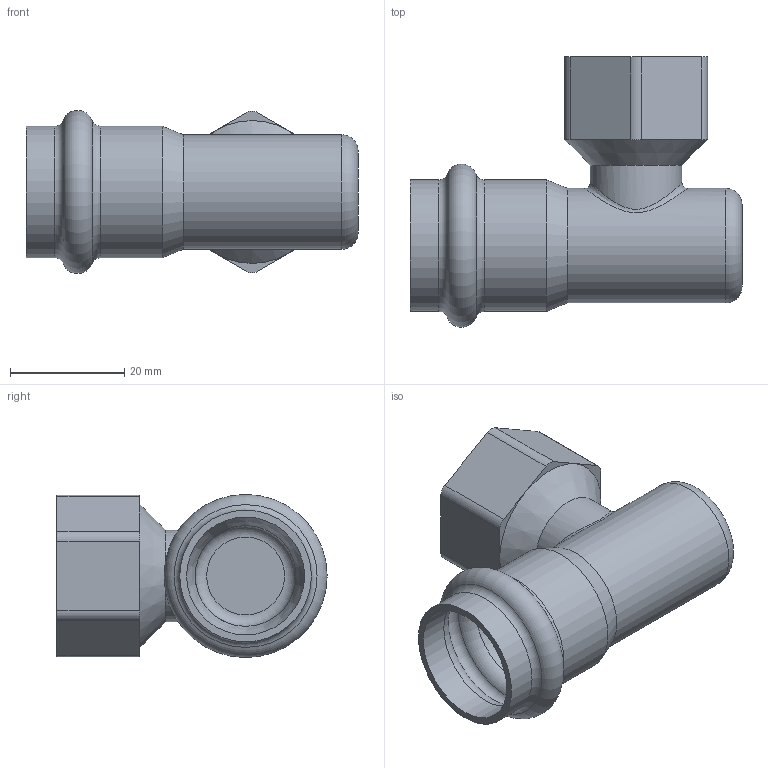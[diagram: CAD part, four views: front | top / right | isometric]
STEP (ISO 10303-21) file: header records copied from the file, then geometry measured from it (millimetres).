
FILE_DESCRIPTION(/* description */ (''),/* implementation_level */ '2;1');
FILE_NAME(/* name */ '51269010001.stp',/* time_stamp */ '2020-06-22T14:54:41+08:00',/* author */ (''),/* organization */ (''),/* preprocessor_version */ 'ST-DEVELOPER v11',/* originating_system */ 'SIEMENS PLM Software NX 7.5',/* authorisation */ '');
FILE_SCHEMA (('CONFIG_CONTROL_DESIGN'));
Length unit declared in the file: millimetre
Products named in the file (1): Admi4F60b49g
Bounding box: 58 x 47.22 x 28.49 mm (x, y, z)
Volume: 9458.7 mm3; surface area: 11561 mm2
Topology: 1 solids, 1 shells, 40 faces, 88 edges, 53 vertices
Faces by surface type: cylinder 15, plane 11, torus 8, cone 5, bspline 1
Full cylindrical faces by diameter (mm): 14.4 x1, 16 x1, 17.6 x1, 18.6 x1, 20 x1, 20.6 x2, 23 x2
Entity records: 1247 total; most frequent: CARTESIAN_POINT 363, DIRECTION 176, ORIENTED_EDGE 126, AXIS2_PLACEMENT_3D 76, EDGE_LOOP 68, EDGE_CURVE 63, FACE_BOUND 54, VERTEX_POINT 51
